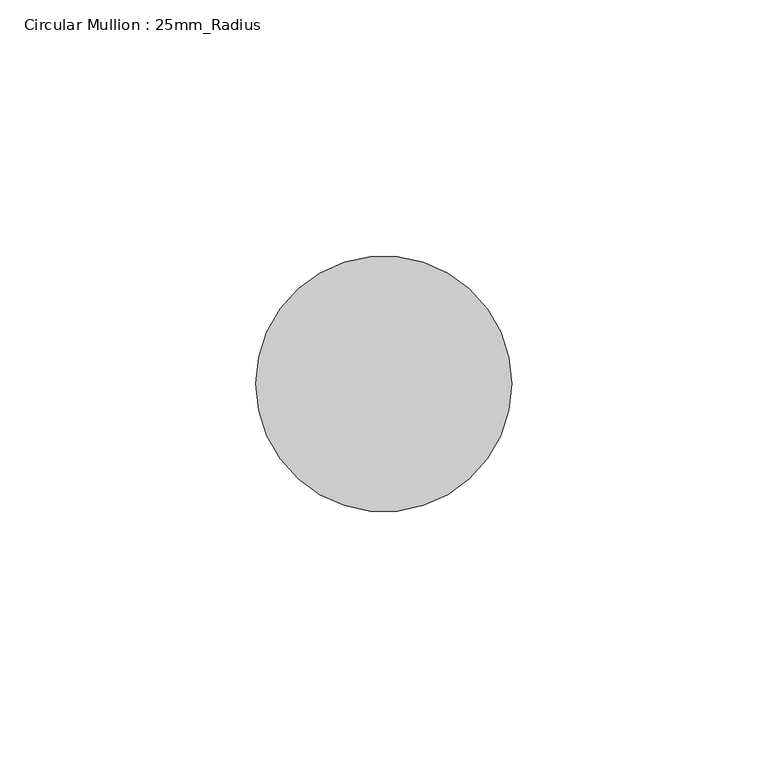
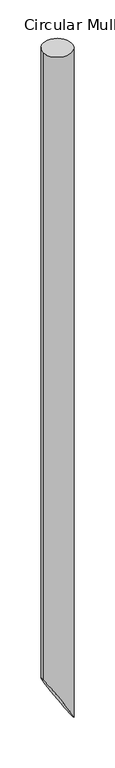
"""IFC4 building model written with IfcOpenShell, lengths in millimetres: member geometry, Circular Mullion : 25mm_Radius."""

from ifc_helpers import new_model, si_unit, frame, origin, place, context, project, spatial, circle_curve, ellipse_curve, source, transform, mapped, element, save
from ifc_brep_helpers import plane_surface, cylinder_surface, advanced_brep


def circular_mullion_25mm_radius_77b6e018(model_context):
    return source(origin(), model_context, "Body", "AdvancedBrep", [
        advanced_brep(
        [(-50.0, 0.0, 0.0), (0.0, 0.0, 0.0), (0.0, 0.0, -1236.0236817), (-50.0, 0.0, -1152.9702108)],
        [
            (0, 1, circle_curve(frame((-25.0, 0.0, 0.0), z_axis=(0.0, 0.0, -1.0), x_axis=(1.0, 0.0, 0.0)), 25.0)),
            (1, 2),
            (2, 3, ellipse_curve(frame((-25.0, 0.0, -1194.4969463), z_axis=(0.8567278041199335, 0.0, 0.5157688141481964), x_axis=(-0.5157688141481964, 0.0, 0.8567278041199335)), 48.4713292, 25.0)),
            (3, 0),
            (1, 0, circle_curve(frame((-25.0, 0.0, 0.0), z_axis=(0.0, 0.0, -1.0), x_axis=(1.0, 0.0, 0.0)), 25.0)),
            (3, 2, ellipse_curve(frame((-25.0, 0.0, -1194.4969463), z_axis=(0.8567278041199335, 0.0, 0.5157688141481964), x_axis=(-0.5157688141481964, 0.0, 0.8567278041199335)), 48.4713292, 25.0)),
        ],
        [
            cylinder_surface(frame((-25.0, 0.0, 0.0), z_axis=(0.0, 0.0, 1.0), x_axis=(1.0, 0.0, 0.0)), 25.0),
            plane_surface(frame((-304.8, 0.0, 0.0), z_axis=(0.0, 0.0, 1.0), x_axis=(0.0, 1.0, 0.0))),
            plane_surface(frame((0.0, -304.8, -1236.0236817), z_axis=(-0.8567278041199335, 0.0, -0.5157688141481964), x_axis=(-0.5157688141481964, 0.0, 0.8567278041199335))),
        ],
        [
            (0, [[1, 2, 3, 4]]),
            (0, [[5, -4, 6, -2]]),
            (1, [[-1, -5]]),
            (2, [[-6, -3]]),
        ],
    ),
    ])


if __name__ == "__main__":
    model = new_model("IFC4")
    model_context = context("Model", 3, world=origin())
    ifc_project = project(units=[si_unit("LENGTHUNIT", "METRE", prefix="MILLI")], contexts=[model_context])
    site = spatial("IfcSite", under=ifc_project)
    building = spatial("IfcBuilding", under=site)
    placement = place(None, origin())
    circular_mullion_25mm_radius_shape = circular_mullion_25mm_radius_77b6e018(model_context)
    element("IfcMember", 1, ObjectType="Circular Mullion : 25mm_Radius", at=placement, inside=building, context=model_context, shape_type="MappedRepresentation", body=[
        mapped(circular_mullion_25mm_radius_shape, transform((0.0, 0.0, 0.0), x_axis=(1.0, 0.0, 0.0), y_axis=(0.0, 1.0, 0.0), z_axis=(0.0, 0.0, 1.0))),
    ])
    save(model, "model.ifc")
